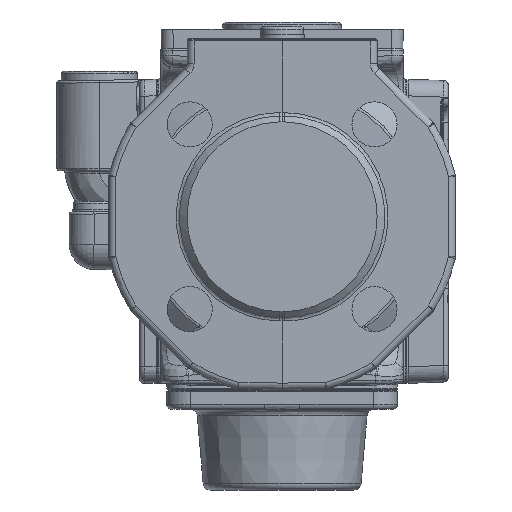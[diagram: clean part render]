
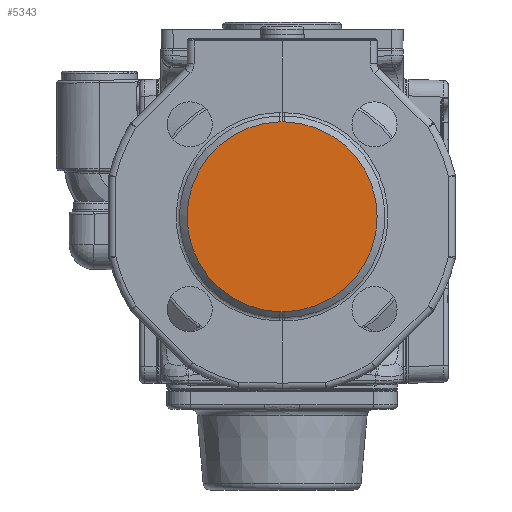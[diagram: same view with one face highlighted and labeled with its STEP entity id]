
A CAD part, left-side view. The second image highlights one B-rep face of the part: STEP entity #5343.
In plain terms, the highlighted planar face has unit normal (-1, 0, 0).
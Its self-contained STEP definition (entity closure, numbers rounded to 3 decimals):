
#2848=B_SPLINE_CURVE_WITH_KNOTS('',3,(#64756,#64757,#64758,#64759,#64760,
#64761,#64762),.UNSPECIFIED.,.F.,.F.,(4,3,4),(0.,0.403,1.),
 .UNSPECIFIED.);
#2852=B_SPLINE_CURVE_WITH_KNOTS('',3,(#64808,#64809,#64810,#64811,#64812,
#64813,#64814),.UNSPECIFIED.,.F.,.F.,(4,3,4),(0.,0.47,1.),
 .UNSPECIFIED.);
#2857=B_SPLINE_CURVE_WITH_KNOTS('',3,(#64888,#64889,#64890,#64891,#64892,
#64893,#64894),.UNSPECIFIED.,.F.,.F.,(4,3,4),(0.,0.47,1.),
 .UNSPECIFIED.);
#2859=B_SPLINE_CURVE_WITH_KNOTS('',3,(#64922,#64923,#64924,#64925,#64926,
#64927,#64928),.UNSPECIFIED.,.F.,.F.,(4,3,4),(0.,0.403,1.),
 .UNSPECIFIED.);
#5343=ADVANCED_FACE('',(#9412),#7492,.T.);
#7492=PLANE('',#48918);
#9412=FACE_OUTER_BOUND('',#12008,.T.);
#12008=EDGE_LOOP('',(#27805,#27806,#27807,#27808,#27809,#27810));
#14290=CIRCLE('',#47293,40.);
#14291=CIRCLE('',#47295,40.);
#27805=ORIENTED_EDGE('',*,*,#40209,.F.);
#27806=ORIENTED_EDGE('',*,*,#40202,.F.);
#27807=ORIENTED_EDGE('',*,*,#40212,.F.);
#27808=ORIENTED_EDGE('',*,*,#40217,.F.);
#27809=ORIENTED_EDGE('',*,*,#40214,.F.);
#27810=ORIENTED_EDGE('',*,*,#40206,.F.);
#35934=VERTEX_POINT('',#64755);
#35935=VERTEX_POINT('',#64763);
#35938=VERTEX_POINT('',#64807);
#35939=VERTEX_POINT('',#64815);
#35942=VERTEX_POINT('',#64887);
#35943=VERTEX_POINT('',#64929);
#40202=EDGE_CURVE('',#35934,#35935,#2848,.T.);
#40206=EDGE_CURVE('',#35938,#35939,#2852,.T.);
#40209=EDGE_CURVE('',#35935,#35938,#14290,.T.);
#40212=EDGE_CURVE('',#35942,#35934,#2857,.T.);
#40214=EDGE_CURVE('',#35939,#35943,#2859,.T.);
#40217=EDGE_CURVE('',#35943,#35942,#14291,.T.);
#47293=AXIS2_PLACEMENT_3D('',#64851,#52106,#52107);
#47295=AXIS2_PLACEMENT_3D('',#64968,#52110,#52111);
#48918=AXIS2_PLACEMENT_3D('',#89890,#56364,#56365);
#52106=DIRECTION('',(1.,0.,0.));
#52107=DIRECTION('',(0.,1.,0.));
#52110=DIRECTION('',(1.,0.,0.));
#52111=DIRECTION('',(0.,1.,0.));
#56364=DIRECTION('',(-1.,0.,0.));
#56365=DIRECTION('',(0.,1.,0.));
#64755=CARTESIAN_POINT('',(-120.,-1.,-41.012));
#64756=CARTESIAN_POINT('',(-120.,-1.,-41.012));
#64757=CARTESIAN_POINT('',(-120.,-0.867,-41.009));
#64758=CARTESIAN_POINT('',(-120.,-0.735,-41.006));
#64759=CARTESIAN_POINT('',(-120.,-0.602,-41.002));
#64760=CARTESIAN_POINT('',(-120.,-0.405,-40.998));
#64761=CARTESIAN_POINT('',(-120.,-0.209,-40.993));
#64762=CARTESIAN_POINT('',(-120.,-0.013,-40.988));
#64763=CARTESIAN_POINT('',(-120.,-0.013,-40.988));
#64807=CARTESIAN_POINT('',(-120.,-0.013,38.988));
#64808=CARTESIAN_POINT('',(-120.,-0.013,38.988));
#64809=CARTESIAN_POINT('',(-120.,-0.167,38.992));
#64810=CARTESIAN_POINT('',(-120.,-0.322,38.995));
#64811=CARTESIAN_POINT('',(-120.,-0.477,38.999));
#64812=CARTESIAN_POINT('',(-120.,-0.651,39.004));
#64813=CARTESIAN_POINT('',(-120.,-0.826,39.008));
#64814=CARTESIAN_POINT('',(-120.,-1.,39.012));
#64815=CARTESIAN_POINT('',(-120.,-1.,39.012));
#64851=CARTESIAN_POINT('',(-120.,-1.,-1.));
#64887=CARTESIAN_POINT('',(-120.,-1.987,-40.988));
#64888=CARTESIAN_POINT('',(-120.,-1.987,-40.988));
#64889=CARTESIAN_POINT('',(-120.,-1.833,-40.992));
#64890=CARTESIAN_POINT('',(-120.,-1.678,-40.995));
#64891=CARTESIAN_POINT('',(-120.,-1.523,-40.999));
#64892=CARTESIAN_POINT('',(-120.,-1.349,-41.004));
#64893=CARTESIAN_POINT('',(-120.,-1.174,-41.008));
#64894=CARTESIAN_POINT('',(-120.,-1.,-41.012));
#64922=CARTESIAN_POINT('',(-120.,-1.,39.012));
#64923=CARTESIAN_POINT('',(-120.,-1.133,39.009));
#64924=CARTESIAN_POINT('',(-120.,-1.265,39.006));
#64925=CARTESIAN_POINT('',(-120.,-1.398,39.002));
#64926=CARTESIAN_POINT('',(-120.,-1.595,38.998));
#64927=CARTESIAN_POINT('',(-120.,-1.791,38.993));
#64928=CARTESIAN_POINT('',(-120.,-1.987,38.988));
#64929=CARTESIAN_POINT('',(-120.,-1.987,38.988));
#64968=CARTESIAN_POINT('',(-120.,-1.,-1.));
#89890=CARTESIAN_POINT('',(-120.,-1.,-1.));
